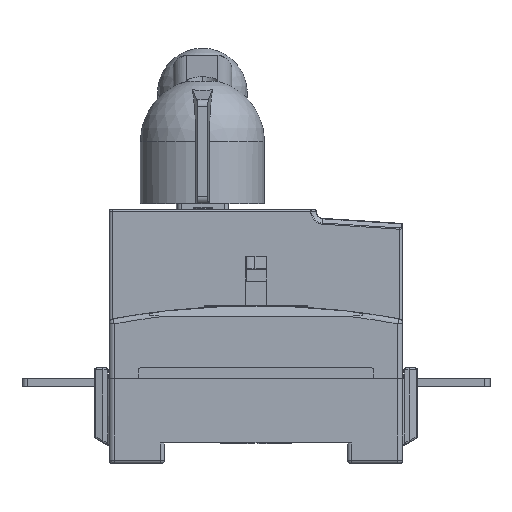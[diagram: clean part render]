
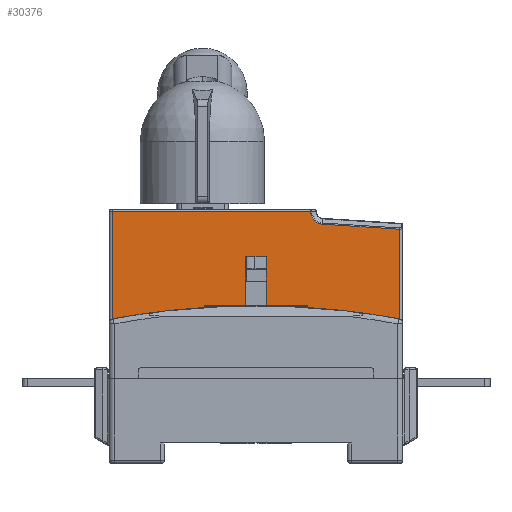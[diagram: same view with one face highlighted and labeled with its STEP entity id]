
A CAD part, left-side view. The second image highlights one B-rep face of the part: STEP entity #30376.
In plain terms, the highlighted planar face has unit normal (-1, 0, 0).
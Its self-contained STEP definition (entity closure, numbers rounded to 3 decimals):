
#24570=DIRECTION('',(0.,-1.,0.));
#24571=VECTOR('',#24570,57.293);
#24572=CARTESIAN_POINT('',(-30.,41.5,31.3));
#24573=LINE('',#24572,#24571);
#24861=DIRECTION('',(0.,0.,1.));
#24862=VECTOR('',#24861,31.3);
#24863=CARTESIAN_POINT('',(-30.,41.5,0.));
#24864=LINE('',#24863,#24862);
#24875=DIRECTION('',(0.,0.,1.));
#24876=VECTOR('',#24875,18.2);
#24877=CARTESIAN_POINT('',(-30.,3.,0.));
#24878=LINE('',#24877,#24876);
#24882=CARTESIAN_POINT('',(-30.,-19.5,31.3));
#24883=DIRECTION('',(1.,0.,0.));
#24884=DIRECTION('',(0.,0.065,-0.998));
#24885=AXIS2_PLACEMENT_3D('',#24882,#24883,#24884);
#24890=DIRECTION('',(0.,0.998,0.065));
#24891=VECTOR('',#24890,22.288);
#24892=CARTESIAN_POINT('',(-30.,-41.5,26.154));
#24893=LINE('',#24892,#24891);
#24904=DIRECTION('',(0.,0.,-1.));
#24905=VECTOR('',#24904,26.154);
#24906=CARTESIAN_POINT('',(-30.,-41.5,26.154));
#24907=LINE('',#24906,#24905);
#24919=DIRECTION('',(0.,1.,0.));
#24920=VECTOR('',#24919,38.5);
#24921=CARTESIAN_POINT('',(-30.,3.,0.));
#24922=LINE('',#24921,#24920);
#24926=DIRECTION('',(0.,1.,0.));
#24927=VECTOR('',#24926,38.5);
#24928=CARTESIAN_POINT('',(-30.,-41.5,0.));
#24929=LINE('',#24928,#24927);
#25000=DIRECTION('',(0.,1.,0.));
#25001=VECTOR('',#25000,6.);
#25002=CARTESIAN_POINT('',(-30.,-3.,18.2));
#25003=LINE('',#25002,#25001);
#25035=DIRECTION('',(0.,0.,1.));
#25036=VECTOR('',#25035,18.2);
#25037=CARTESIAN_POINT('',(-30.,-3.,0.));
#25038=LINE('',#25037,#25036);
#28899=CARTESIAN_POINT('',(-30.,-15.793,31.3));
#28901=VERTEX_POINT('',#28899);
#29216=CARTESIAN_POINT('',(-30.,-41.5,26.154));
#29217=CARTESIAN_POINT('',(-30.,-41.5,0.));
#29218=VERTEX_POINT('',#29216);
#29219=VERTEX_POINT('',#29217);
#29282=CARTESIAN_POINT('',(-30.,-3.,18.2));
#29283=VERTEX_POINT('',#29282);
#29306=CARTESIAN_POINT('',(-30.,3.,18.2));
#29307=VERTEX_POINT('',#29306);
#29332=CARTESIAN_POINT('',(-30.,-19.259,27.601));
#29333=VERTEX_POINT('',#29332);
#29423=CARTESIAN_POINT('',(-30.,41.5,31.3));
#29424=VERTEX_POINT('',#29423);
#29441=CARTESIAN_POINT('',(-30.,3.,0.));
#29442=VERTEX_POINT('',#29441);
#29447=CARTESIAN_POINT('',(-30.,-3.,0.));
#29448=VERTEX_POINT('',#29447);
#29487=CARTESIAN_POINT('',(-30.,41.5,0.));
#29488=VERTEX_POINT('',#29487);
#30353=CARTESIAN_POINT('',(-30.,-42.5,31.8));
#30354=DIRECTION('',(1.,0.,0.));
#30355=DIRECTION('',(0.,0.,-1.));
#30356=AXIS2_PLACEMENT_3D('',#30353,#30354,#30355);
#30357=PLANE('',#30356);
#30359=ORIENTED_EDGE('',*,*,#30358,.T.);
#30361=ORIENTED_EDGE('',*,*,#30360,.T.);
#30363=ORIENTED_EDGE('',*,*,#30362,.T.);
#30365=ORIENTED_EDGE('',*,*,#30364,.T.);
#30367=ORIENTED_EDGE('',*,*,#30366,.F.);
#30369=ORIENTED_EDGE('',*,*,#30368,.T.);
#30370=ORIENTED_EDGE('',*,*,#30343,.T.);
#30371=ORIENTED_EDGE('',*,*,#29956,.T.);
#30372=ORIENTED_EDGE('',*,*,#29984,.F.);
#30373=ORIENTED_EDGE('',*,*,#29999,.F.);
#30374=EDGE_LOOP('',(#30359,#30361,#30363,#30365,#30367,#30369,#30370,#30371,
#30372,#30373));
#30375=FACE_OUTER_BOUND('',#30374,.F.);
#24886=CIRCLE('',#24885,3.707);
#29956=EDGE_CURVE('',#29424,#28901,#24573,.T.);
#29984=EDGE_CURVE('',#29333,#28901,#24886,.T.);
#29999=EDGE_CURVE('',#29218,#29333,#24893,.T.);
#30343=EDGE_CURVE('',#29488,#29424,#24864,.T.);
#30358=EDGE_CURVE('',#29218,#29219,#24907,.T.);
#30360=EDGE_CURVE('',#29219,#29448,#24929,.T.);
#30362=EDGE_CURVE('',#29448,#29283,#25038,.T.);
#30364=EDGE_CURVE('',#29283,#29307,#25003,.T.);
#30366=EDGE_CURVE('',#29442,#29307,#24878,.T.);
#30368=EDGE_CURVE('',#29442,#29488,#24922,.T.);
#30376=ADVANCED_FACE('',(#30375),#30357,.F.);
